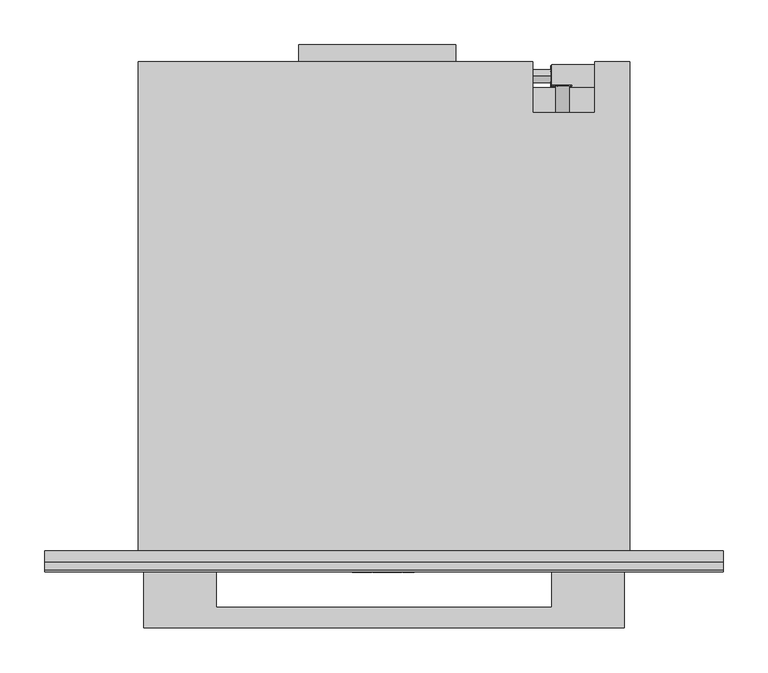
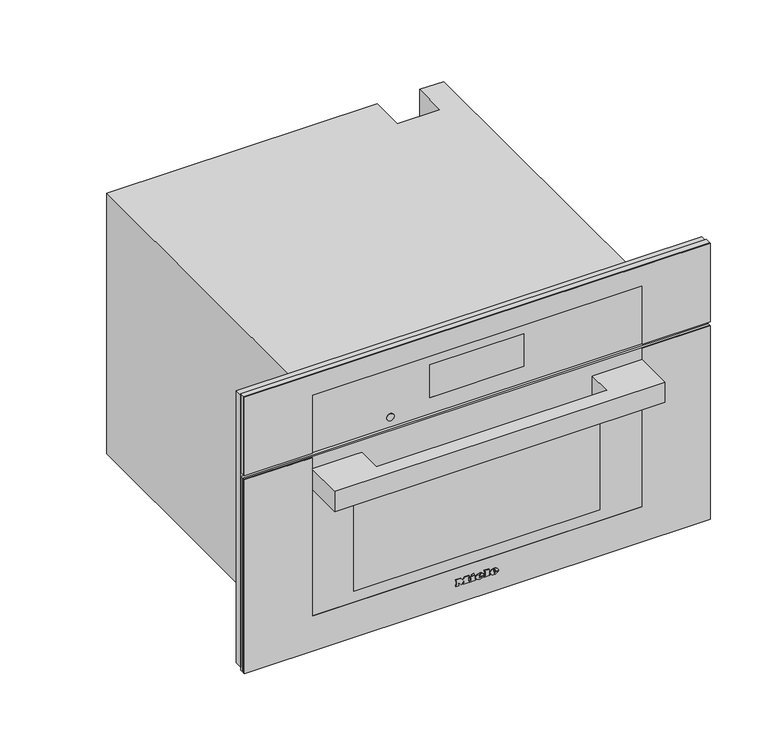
"""IFC4 building model written with IfcOpenShell, lengths in millimetres: proxy geometry, 11875760_USA_DGC7775_EDST-CLST : 23777542_USA_11875760_DGC7775_EDST-CLST."""

from ifc_helpers import new_model, si_unit, point, frame, frame_2d, origin, place, context, project, spatial, polyline, circle_curve, ellipse_curve, trimmed, segment, composite_curve, outline, extrude, faceted_brep, source, transform, mapped, element, save
from ifc_brep_helpers import plane_surface, cylinder_surface, revolved_surface, extruded_surface, advanced_brep


def specialty_equipment_04b4d9b1(model_context):
    return source(origin(), model_context, "Body", "SolidModel", [
        faceted_brep([(378.5, -13.0, 476.0), (-378.5, -13.0, 476.0), (-378.5, -13.0, 9.0), (-272.5, -13.0, 9.0), (-272.5, -13.0, 344.0), (272.5, -13.0, 344.0), (272.5, -13.0, 9.0), (378.5, -13.0, 9.0), (378.5, 0.0, 476.0), (378.5, 0.0, 9.0), (-378.5, 0.0, 9.0), (-378.5, 0.0, 476.0), (231.0, 0.0, 58.0), (231.0, 0.0, 286.0), (-231.0, 0.0, 286.0), (-231.0, 0.0, 58.0), (272.5, -5.0, 9.0), (-272.5, -5.0, 9.0), (-272.5, -5.0, 344.0), (272.5, -5.0, 344.0), (231.0, -5.0, 286.0), (231.0, -5.0, 58.0), (-231.0, -5.0, 58.0), (-231.0, -5.0, 286.0)], [[[0, 1, 2, 3, 4, 5, 6, 7]], [[8, 9, 10, 11], [12, 13, 14, 15]], [[1, 0, 8, 11]], [[2, 1, 11, 10]], [[10, 9, 7, 6, 16, 17, 3, 2]], [[0, 7, 9, 8]], [[18, 19, 5, 4]], [[18, 4, 3, 17]], [[5, 19, 16, 6]], [[19, 18, 17, 16], [20, 21, 22, 23]], [[20, 13, 12, 21]], [[21, 12, 15, 22]], [[22, 15, 14, 23]], [[13, 20, 23, 14]]]),
        extrude(outline(polyline([(-95.0, 565.0), (80.0, 565.0), (80.0, 546.0), (-95.0, 546.0), (-95.0, 565.0)])), frame((0.0, 0.0, 260.0), z_axis=(0.0, 0.0, 1.0), x_axis=(1.0, 0.0, 0.0)), (0.0, 0.0, 1.0), 1.0),
        extrude(outline(polyline([(224.8383288, 537.0), (231.1236409, 537.0), (231.1236409, 526.9492425), (229.8571792, 526.9492425), (229.8571792, 535.7409796), (224.8383288, 535.7409796), (224.8383288, 537.0)])), frame((0.0, 0.0, 132.0), z_axis=(0.0, 0.0, 1.0), x_axis=(1.0, 0.0, 0.0)), (0.0, 0.0, 1.0), 1.0),
        extrude(outline(polyline([(233.0, 537.0), (240.3797826, 537.0), (240.3797826, 526.9503529), (233.15422, 526.9503529), (233.15422, 528.220938), (239.1355215, 528.220938), (239.1355215, 531.1975645), (233.4863097, 531.1975645), (233.4863097, 532.449242), (239.1355215, 532.449242), (239.1355215, 535.7448633), (233.0, 535.7448633), (233.0, 537.0)])), frame((0.0, 0.0, 132.0), z_axis=(0.0, 0.0, 1.0), x_axis=(1.0, 0.0, 0.0)), (0.0, 0.0, 1.0), 1.0),
        extrude(outline(polyline([(519.6429442, 19.9943805), (518.3113439, 19.9943805), (522.3179353, 30.0448542), (523.3959224, 30.0448542), (527.4062166, 20.0), (526.0536081, 20.0), (524.9175759, 23.121223), (520.7810217, 23.121223), (519.6429442, 19.9943805)]), holes=[polyline([(521.2587176, 24.4336815), (524.43988, 24.4336815), (522.8492988, 28.8037675), (521.2587176, 24.4336815)])]), frame((186.0, 0.0, 0.0), z_axis=(1.0, 0.0, 0.0), x_axis=(0.0, 1.0, 0.0)), (0.0, 0.0, 1.0), 1.0),
        extrude(outline(polyline([(530.5321321, 20.0), (527.8018067, 30.0490432), (529.0968223, 30.0490432), (531.1602937, 21.4201336), (533.686646, 30.0556718), (535.5455392, 30.0556718), (538.1024658, 21.4662572), (540.1658975, 30.0556718), (541.4634812, 30.0556718), (538.7128319, 20.0), (537.3799359, 20.0), (534.6350025, 28.8403806), (532.048723, 20.0), (530.5321321, 20.0)])), frame((186.0, 0.0, 0.0), z_axis=(1.0, 0.0, 0.0), x_axis=(0.0, 1.0, 0.0)), (0.0, 0.0, 1.0), 1.0),
        extrude(outline(composite_curve([segment(trimmed(circle_curve(frame_2d((233.0, 532.0)), 7.5), [point((225.5, 532.0))], [point((240.5, 532.0))], False, "CARTESIAN"), True, "CONTINUOUS"), segment(trimmed(circle_curve(frame_2d((233.0, 532.0)), 7.5), [point((240.5, 532.0))], [point((225.5, 532.0))], False, "CARTESIAN"), True, "CONTINUOUS")], self_intersect=False)), frame((0.0, 0.0, 133.0), z_axis=(0.0, 0.0, 1.0), x_axis=(1.0, 0.0, 0.0)), (0.0, 0.0, 1.0), 30.0),
        extrude(outline(polyline([(266.0, 517.0), (187.0, 517.0), (187.0, 543.0), (266.0, 543.0), (266.0, 517.0)])), frame((0.0, 0.0, 163.0), z_axis=(0.0, 0.0, 1.0), x_axis=(1.0, 0.0, 0.0)), (0.0, 0.0, 1.0), 111.0),
        extrude(outline(polyline([(383.0, 196.9217896), (383.0, 198.4267862), (393.0435673, 201.1942402), (393.0435673, 199.9014806), (384.4295103, 197.7797951), (393.0470645, 195.3087512), (393.0470645, 193.4373937), (384.4121052, 190.9191482), (393.0472266, 188.8443938), (393.0472266, 187.5376524), (383.0, 190.2769667), (383.0, 191.6257455), (391.8347238, 194.3884733), (383.0, 196.9217896)])), frame((0.0, 519.0, 0.0), z_axis=(0.0, 1.0, 0.0), x_axis=(0.0, 0.0, 1.0)), (0.0, 0.0, 1.0), 1.0),
        extrude(outline(polyline([(393.0468463, 209.521488), (393.0468463, 208.2566067), (388.129594, 208.2566067), (393.0474898, 203.1074328), (393.0474898, 201.3597489), (388.9313111, 205.6695027), (383.0, 201.1858157), (383.0, 202.7358731), (388.0700777, 206.5685235), (386.4282746, 208.2823622), (383.0, 208.2823622), (383.0, 209.521488), (393.0468463, 209.521488)])), frame((0.0, 519.0, 0.0), z_axis=(0.0, 1.0, 0.0), x_axis=(0.0, 0.0, 1.0)), (0.0, 0.0, 1.0), 1.0),
        extrude(outline(composite_curve([segment(trimmed(circle_curve(frame_2d((388.0, 199.0)), 7.5), [point((388.0, 206.5))], [point((388.0, 191.5))], False, "CARTESIAN"), True, "CONTINUOUS"), segment(trimmed(circle_curve(frame_2d((388.0, 199.0)), 7.5), [point((388.0, 191.5))], [point((388.0, 206.5))], False, "CARTESIAN"), True, "CONTINUOUS")], self_intersect=False)), frame((0.0, 489.0, 0.0), z_axis=(0.0, 1.0, 0.0), x_axis=(0.0, 0.0, 1.0)), (0.0, 0.0, 1.0), 30.0),
        extrude(outline(composite_curve([segment(trimmed(circle_curve(frame_2d((530.0, 25.0)), 7.5), [point((530.0, 17.5))], [point((530.0, 32.5))], False, "CARTESIAN"), True, "CONTINUOUS"), segment(trimmed(circle_curve(frame_2d((530.0, 25.0)), 7.5), [point((530.0, 32.5))], [point((530.0, 17.5))], False, "CARTESIAN"), True, "CONTINUOUS")], self_intersect=False)), frame((166.0, 0.0, 0.0), z_axis=(1.0, 0.0, 0.0), x_axis=(0.0, 1.0, 0.0)), (0.0, 0.0, 1.0), 20.0),
        faceted_brep([(-274.0, 546.0, 0.0), (-274.0, 546.0, 448.0), (166.0, 546.0, 448.0), (166.0, 546.0, 0.0), (235.0, 546.0, 448.0), (274.0, 546.0, 448.0), (274.0, 546.0, 338.0), (235.0, 546.0, 338.0), (274.0, 0.0, 448.0), (-274.0, 0.0, 448.0), (-274.0, 0.0, 0.0), (274.0, 0.0, 0.0), (231.0, 0.0, 286.0), (231.0, 0.0, 58.0), (-231.0, 0.0, 58.0), (-231.0, 0.0, 286.0), (235.0, 489.0, 448.0), (166.0, 489.0, 448.0), (166.0, 517.0, 0.0), (274.0, 517.0, 0.0), (274.0, 517.0, 338.0), (231.0, 411.0, 286.0), (-231.0, 411.0, 286.0), (-231.0, 411.0, 58.0), (231.0, 411.0, 58.0), (235.0, 489.0, 337.0), (166.0, 489.0, 337.0), (166.0, 517.0, 337.0), (235.0, 517.0, 337.0), (235.0, 517.0, 338.0)], [[[0, 1, 2, 3]], [[4, 5, 6, 7]], [[8, 9, 10, 11], [12, 13, 14, 15]], [[9, 8, 5, 4, 16, 17, 2, 1]], [[1, 0, 10, 9]], [[11, 10, 0, 3, 18, 19]], [[8, 11, 19, 20, 6, 5]], [[21, 22, 23, 24]], [[21, 24, 13, 12]], [[24, 23, 14, 13]], [[23, 22, 15, 14]], [[22, 21, 12, 15]], [[16, 25, 26, 17]], [[17, 26, 27, 18, 3, 2]], [[26, 25, 28, 27]], [[25, 16, 4, 7, 29, 28]], [[29, 20, 19, 18, 27, 28]], [[20, 29, 7, 6]]]),
        advanced_brep(
        [(26.2998, -24.3, 36.7018), (26.2998, -24.3, 37.8532), (33.9264, -24.3, 37.8532), (20.6568, -24.3, 37.8532), (23.7918, -24.3, 34.0), (33.7326, -24.3, 36.7018), (30.2898, -24.3, 36.7018), (27.5766, -24.3, 35.425), (26.2998, -24.3, 39.3124), (26.2998, -24.3, 40.555), (28.2492, -24.3, 40.555), (28.2492, -24.3, 39.3124), (26.2998, -23.3, 36.7018), (27.5766, -23.3, 35.425), (30.2898, -23.3, 36.7018), (33.7326, -23.3, 36.7018), (23.7918, -23.3, 34.0), (20.6568, -23.3, 37.8532), (33.9264, -23.3, 37.8532), (26.2998, -23.3, 37.8532), (26.2998, -23.3, 39.3124), (28.2492, -23.3, 39.3124), (28.2492, -23.3, 40.555), (26.2998, -23.3, 40.555)],
        [
            (0, 1),
            (1, 2),
            (2, 3, ellipse_curve(frame((27.2916, -24.3, 37.8532), z_axis=(0.0, -1.0, 0.0), x_axis=(-1.0, 0.0, 0.0)), 6.6348, 5.4834)),
            (3, 4, circle_curve(frame((25.0686622, -24.3, 38.2408), z_axis=(0.0, -1.0, 0.0), x_axis=(0.0, 0.0, -1.0)), 4.4288556)),
            (4, 5, circle_curve(frame((27.1587808, -24.3, 41.2504), z_axis=(0.0, -1.0, 0.0), x_axis=(0.0, 0.0, -1.0)), 7.9940516)),
            (5, 6),
            (6, 7, circle_curve(frame((28.1338588, -24.3, 37.762), z_axis=(0.0, 1.0, 0.0), x_axis=(0.0, 0.0, -1.0)), 2.4025208)),
            (7, 0, circle_curve(frame((27.5766, -24.3, 36.7018), z_axis=(0.0, 1.0, 0.0), x_axis=(0.0, 0.0, -1.0)), 1.2768)),
            (8, 9),
            (9, 10, circle_curve(frame((27.2745, -24.3, 40.555), z_axis=(0.0, 1.0, 0.0), x_axis=(0.0, 0.0, -1.0)), 0.9747)),
            (10, 11),
            (11, 8),
            (12, 13, circle_curve(frame((27.5766, -23.3, 36.7018), z_axis=(0.0, -1.0, 0.0), x_axis=(0.0, 0.0, -1.0)), 1.2768)),
            (13, 14, circle_curve(frame((28.1338588, -23.3, 37.762), z_axis=(0.0, -1.0, 0.0), x_axis=(0.0, 0.0, -1.0)), 2.4025208)),
            (14, 15),
            (15, 16, circle_curve(frame((27.1587808, -23.3, 41.2504), z_axis=(0.0, 1.0, 0.0), x_axis=(0.0, 0.0, -1.0)), 7.9940516)),
            (16, 17, circle_curve(frame((25.0686622, -23.3, 38.2408), z_axis=(0.0, 1.0, 0.0), x_axis=(0.0, 0.0, -1.0)), 4.4288556)),
            (17, 18, ellipse_curve(frame((27.2916, -23.3, 37.8532), z_axis=(0.0, 1.0, 0.0), x_axis=(-1.0, 0.0, 0.0)), 6.6348, 5.4834)),
            (18, 19),
            (19, 12),
            (20, 21),
            (21, 22),
            (22, 23, circle_curve(frame((27.2745, -23.3, 40.555), z_axis=(0.0, -1.0, 0.0), x_axis=(0.0, 0.0, -1.0)), 0.9747)),
            (23, 20),
            (0, 12),
            (19, 1),
            (18, 2),
            (5, 15),
            (14, 6),
            (17, 3),
            (13, 7),
            (16, 4),
            (8, 20),
            (23, 9),
            (22, 10),
            (21, 11),
        ],
        [
            plane_surface(frame((26.2998, -24.3, 37.8532), z_axis=(0.0, -1.0, 0.0), x_axis=(0.0, 0.0, 1.0))),
            plane_surface(frame((26.2998, -23.3, 37.8532), z_axis=(0.0, 1.0, 0.0), x_axis=(0.0, 0.0, -1.0))),
            plane_surface(frame((26.2998, -24.3, 36.7018), z_axis=(1.0, 0.0, 0.0), x_axis=(0.0, 1.0, 0.0))),
            plane_surface(frame((26.2998, -24.3, 37.8532), z_axis=(0.0, 0.0, -1.0), x_axis=(0.0, 1.0, 0.0))),
            plane_surface(frame((33.7326, -24.3, 36.7018), z_axis=(0.0, 0.0, 1.0), x_axis=(0.0, 1.0, 0.0))),
            extruded_surface(trimmed(ellipse_curve(frame((27.2916, -22.3, 37.8532), z_axis=(0.0, -1.0, 0.0), x_axis=(-1.0, 0.0, 0.0)), 6.6348, 5.4834), [point((33.9264, -22.3, 37.8532))], [point((20.6568, -22.3, 37.8532))], True, "CARTESIAN"), (0.0, -1.0, 0.0), 1.0),
            revolved_surface(polyline([(28.1338588, -23.3, 35.3594792), (28.1338588, -24.3, 35.3594792)]), (28.1338588, -23.3, 37.762), (0.0, 1.0, 0.0)),
            revolved_surface(polyline([(27.5766, -23.3, 35.425), (27.5766, -24.3, 35.425)]), (27.5766, -23.3, 36.7018), (0.0, 1.0, 0.0)),
            cylinder_surface(frame((25.0686622, -23.3, 38.2408), z_axis=(0.0, -1.0, 0.0), x_axis=(0.0, 0.0, -1.0)), 4.4288556),
            cylinder_surface(frame((27.1587808, -23.3, 41.2504), z_axis=(0.0, -1.0, 0.0), x_axis=(0.0, 0.0, -1.0)), 7.9940516),
            plane_surface(frame((26.2998, -24.3, 39.3124), z_axis=(1.0, 0.0, 0.0), x_axis=(0.0, 1.0, 0.0))),
            revolved_surface(polyline([(27.2745, -23.3, 39.5803), (27.2745, -24.3, 39.5803)]), (27.2745, -23.3, 40.555), (0.0, 1.0, 0.0)),
            plane_surface(frame((28.2492, -24.3, 40.555), z_axis=(-1.0, 0.0, 0.0), x_axis=(0.0, 1.0, 0.0))),
            plane_surface(frame((28.2492, -24.3, 39.3124), z_axis=(0.0, 0.0, 1.0), x_axis=(0.0, 1.0, 0.0))),
        ],
        [
            (0, [[1, 2, 3, 4, 5, 6, 7, 8], [9, 10, 11, 12]]),
            (1, [[13, 14, 15, 16, 17, 18, 19, 20], [21, 22, 23, 24]]),
            (2, [[-1, 25, -20, 26]]),
            (3, [[-2, -26, -19, 27]]),
            (4, [[-6, 28, -15, 29]]),
            (5, [[-3, -27, -18, 30]]),
            (6, [[-7, -29, -14, 31]]),
            (7, [[-8, -31, -13, -25]]),
            (8, [[-4, -30, -17, 32]]),
            (9, [[-5, -32, -16, -28]]),
            (10, [[-9, 33, -24, 34]]),
            (11, [[-10, -34, -23, 35]]),
            (12, [[-11, -35, -22, 36]]),
            (13, [[-12, -36, -21, -33]]),
        ],
    ),
        advanced_brep(
        [(2.508, -24.3, 36.7018), (2.508, -24.3, 37.8532), (10.1346, -24.3, 37.8532), (-3.135, -24.3, 37.8532), (0.0, -24.3, 34.0), (9.9408, -24.3, 36.7018), (6.498, -24.3, 36.7018), (3.7848, -24.3, 35.425), (2.508, -24.3, 39.3124), (2.508, -24.3, 40.555), (4.4574, -24.3, 40.555), (4.4574, -24.3, 39.3124), (2.508, -23.3, 36.7018), (3.7848, -23.3, 35.425), (6.498, -23.3, 36.7018), (9.9408, -23.3, 36.7018), (0.0, -23.3, 34.0), (-3.135, -23.3, 37.8532), (10.1346, -23.3, 37.8532), (2.508, -23.3, 37.8532), (2.508, -23.3, 39.3124), (4.4574, -23.3, 39.3124), (4.4574, -23.3, 40.555), (2.508, -23.3, 40.555)],
        [
            (0, 1),
            (1, 2),
            (2, 3, ellipse_curve(frame((3.4998, -24.3, 37.8532), z_axis=(0.0, -1.0, 0.0), x_axis=(-1.0, 0.0, 0.0)), 6.6348, 5.4834)),
            (3, 4, circle_curve(frame((1.2768622, -24.3, 38.2408), z_axis=(0.0, -1.0, 0.0), x_axis=(0.0, 0.0, -1.0)), 4.4288556)),
            (4, 5, circle_curve(frame((3.3669808, -24.3, 41.2504), z_axis=(0.0, -1.0, 0.0), x_axis=(0.0, 0.0, -1.0)), 7.9940516)),
            (5, 6),
            (6, 7, circle_curve(frame((4.3420588, -24.3, 37.762), z_axis=(0.0, 1.0, 0.0), x_axis=(0.0, 0.0, -1.0)), 2.4025208)),
            (7, 0, circle_curve(frame((3.7848, -24.3, 36.7018), z_axis=(0.0, 1.0, 0.0), x_axis=(0.0, 0.0, -1.0)), 1.2768)),
            (8, 9),
            (9, 10, circle_curve(frame((3.4827, -24.3, 40.555), z_axis=(0.0, 1.0, 0.0), x_axis=(0.0, 0.0, -1.0)), 0.9747)),
            (10, 11),
            (11, 8),
            (12, 13, circle_curve(frame((3.7848, -23.3, 36.7018), z_axis=(0.0, -1.0, 0.0), x_axis=(0.0, 0.0, -1.0)), 1.2768)),
            (13, 14, circle_curve(frame((4.3420588, -23.3, 37.762), z_axis=(0.0, -1.0, 0.0), x_axis=(0.0, 0.0, -1.0)), 2.4025208)),
            (14, 15),
            (15, 16, circle_curve(frame((3.3669808, -23.3, 41.2504), z_axis=(0.0, 1.0, 0.0), x_axis=(0.0, 0.0, -1.0)), 7.9940516)),
            (16, 17, circle_curve(frame((1.2768622, -23.3, 38.2408), z_axis=(0.0, 1.0, 0.0), x_axis=(0.0, 0.0, -1.0)), 4.4288556)),
            (17, 18, ellipse_curve(frame((3.4998, -23.3, 37.8532), z_axis=(0.0, 1.0, 0.0), x_axis=(-1.0, 0.0, 0.0)), 6.6348, 5.4834)),
            (18, 19),
            (19, 12),
            (20, 21),
            (21, 22),
            (22, 23, circle_curve(frame((3.4827, -23.3, 40.555), z_axis=(0.0, -1.0, 0.0), x_axis=(0.0, 0.0, -1.0)), 0.9747)),
            (23, 20),
            (0, 12),
            (19, 1),
            (18, 2),
            (5, 15),
            (14, 6),
            (17, 3),
            (13, 7),
            (16, 4),
            (8, 20),
            (23, 9),
            (22, 10),
            (21, 11),
        ],
        [
            plane_surface(frame((2.508, -24.3, 37.8532), z_axis=(0.0, -1.0, 0.0), x_axis=(0.0, 0.0, 1.0))),
            plane_surface(frame((2.508, -23.3, 37.8532), z_axis=(0.0, 1.0, 0.0), x_axis=(0.0, 0.0, -1.0))),
            plane_surface(frame((2.508, -24.3, 36.7018), z_axis=(1.0, 0.0, 0.0), x_axis=(0.0, 1.0, 0.0))),
            plane_surface(frame((2.508, -24.3, 37.8532), z_axis=(0.0, 0.0, -1.0), x_axis=(0.0, 1.0, 0.0))),
            plane_surface(frame((9.9408, -24.3, 36.7018), z_axis=(0.0, 0.0, 1.0), x_axis=(0.0, 1.0, 0.0))),
            extruded_surface(trimmed(ellipse_curve(frame((3.4998, -22.3, 37.8532), z_axis=(0.0, -1.0, 0.0), x_axis=(-1.0, 0.0, 0.0)), 6.6348, 5.4834), [point((10.1346, -22.3, 37.8532))], [point((-3.135, -22.3, 37.8532))], True, "CARTESIAN"), (0.0, -1.0, 0.0), 1.0),
            revolved_surface(polyline([(4.3420588, -23.3, 35.3594792), (4.3420588, -24.3, 35.3594792)]), (4.3420588, -23.3, 37.762), (0.0, 1.0, 0.0)),
            revolved_surface(polyline([(3.7848, -23.3, 35.425), (3.7848, -24.3, 35.425)]), (3.7848, -23.3, 36.7018), (0.0, 1.0, 0.0)),
            cylinder_surface(frame((1.2768622, -23.3, 38.2408), z_axis=(0.0, -1.0, 0.0), x_axis=(0.0, 0.0, -1.0)), 4.4288556),
            cylinder_surface(frame((3.3669808, -23.3, 41.2504), z_axis=(0.0, -1.0, 0.0), x_axis=(0.0, 0.0, -1.0)), 7.9940516),
            plane_surface(frame((2.508, -24.3, 39.3124), z_axis=(1.0, 0.0, 0.0), x_axis=(0.0, 1.0, 0.0))),
            revolved_surface(polyline([(3.4827, -23.3, 39.5803), (3.4827, -24.3, 39.5803)]), (3.4827, -23.3, 40.555), (0.0, 1.0, 0.0)),
            plane_surface(frame((4.4574, -24.3, 40.555), z_axis=(-1.0, 0.0, 0.0), x_axis=(0.0, 1.0, 0.0))),
            plane_surface(frame((4.4574, -24.3, 39.3124), z_axis=(0.0, 0.0, 1.0), x_axis=(0.0, 1.0, 0.0))),
        ],
        [
            (0, [[1, 2, 3, 4, 5, 6, 7, 8], [9, 10, 11, 12]]),
            (1, [[13, 14, 15, 16, 17, 18, 19, 20], [21, 22, 23, 24]]),
            (2, [[-1, 25, -20, 26]]),
            (3, [[-2, -26, -19, 27]]),
            (4, [[-6, 28, -15, 29]]),
            (5, [[-3, -27, -18, 30]]),
            (6, [[-7, -29, -14, 31]]),
            (7, [[-8, -31, -13, -25]]),
            (8, [[-4, -30, -17, 32]]),
            (9, [[-5, -32, -16, -28]]),
            (10, [[-9, 33, -24, 34]]),
            (11, [[-10, -34, -23, 35]]),
            (12, [[-11, -35, -22, 36]]),
            (13, [[-12, -36, -21, -33]]),
        ],
    ),
        extrude(outline(polyline([(44.7274, -9.9522), (42.8806, -9.0858), (44.6818, -5.2212), (46.5286, -6.0762), (44.7274, -9.9522)])), frame((0.0, -24.3, 0.0), z_axis=(0.0, 1.0, 0.0), x_axis=(0.0, 0.0, 1.0)), (0.0, 0.0, 1.0), 1.0),
        extrude(outline(polyline([(42.6298, -12.768), (40.5892, -12.768), (40.5892, -11.4114), (35.9152, -11.4114), (35.9152, -12.768), (34.0, -12.768), (34.0, -3.7734), (35.9152, -3.7734), (35.9152, -5.0958), (42.6298, -5.0958), (42.6298, -12.768)])), frame((0.0, -24.3, 0.0), z_axis=(0.0, 1.0, 0.0), x_axis=(0.0, 0.0, 1.0)), (0.0, 0.0, 1.0), 1.0),
        extrude(outline(polyline([(43.5418, 10.773), (43.5418, 12.141), (35.9152, 12.141), (35.9152, 10.773), (34.0, 10.773), (34.0, 20.0184), (35.9152, 20.0184), (35.9152, 18.6162), (45.4, 18.6162), (45.4, 10.773), (43.5418, 10.773)])), frame((0.0, -24.3, 0.0), z_axis=(0.0, 1.0, 0.0), x_axis=(0.0, 0.0, 1.0)), (0.0, 0.0, 1.0), 1.0),
        extrude(outline(polyline([(43.5418, -35.4882), (43.5418, -34.1088), (35.9152, -34.1088), (35.9152, -35.4882), (34.0, -35.4882), (34.0, -30.4722), (35.9152, -30.4722), (35.9152, -31.8402), (40.7429247, -31.8402), (34.0, -26.7444), (40.9402223, -21.6258), (35.9152, -21.6258), (35.9152, -23.028), (34.0, -23.028), (34.0, -13.9308), (35.9152, -13.9308), (35.9152, -15.3786), (43.5418, -15.3786), (43.5418, -13.9308), (45.4, -13.9308), (45.4, -20.8734), (41.125, -24.2022), (45.4, -27.5424), (45.4, -35.4882), (43.5418, -35.4882)])), frame((0.0, -24.3, 0.0), z_axis=(0.0, 1.0, 0.0), x_axis=(0.0, 0.0, 1.0)), (0.0, 0.0, 1.0), 1.0),
        extrude(outline(composite_curve([segment(trimmed(circle_curve(frame_2d((361.0, -140.5745637)), 6.0), [point((361.0, -146.5745637))], [point((361.0, -134.5745637))], False, "CARTESIAN"), True, "CONTINUOUS"), segment(trimmed(circle_curve(frame_2d((361.0, -140.5745637)), 6.0), [point((361.0, -134.5745637))], [point((361.0, -146.5745637))], False, "CARTESIAN"), True, "CONTINUOUS")], self_intersect=False)), frame((0.0, -22.5, 0.0), z_axis=(0.0, 1.0, 0.0), x_axis=(0.0, 0.0, 1.0)), (0.0, 0.0, 1.0), 1.0),
        extrude(outline(polyline([(344.0, -268.5), (444.0, -268.5), (444.0, 268.5), (344.0, 268.5), (344.0, 378.5), (479.0, 378.5), (479.0, -378.5), (344.0, -378.5), (344.0, -268.5)])), frame((0.0, -23.3, 0.0), z_axis=(0.0, 1.0, 0.0), x_axis=(0.0, 0.0, 1.0)), (0.0, 0.0, 1.0), 1.3),
        extrude(outline(polyline([(-76.5, -21.0), (76.5, -21.0), (76.5, -22.0), (-76.5, -22.0), (-76.5, -21.0)])), frame((0.0, 0.0, 372.0), z_axis=(0.0, 0.0, 1.0), x_axis=(1.0, 0.0, 0.0)), (0.0, 0.0, 1.0), 56.0),
        faceted_brep([(378.5, -22.0, 479.0), (-378.5, -22.0, 479.0), (-378.5, -22.0, 344.0), (378.5, -22.0, 344.0), (76.5, -22.0, 428.0), (76.5, -22.0, 372.0), (-76.5, -22.0, 372.0), (-76.5, -22.0, 428.0), (378.5, -13.0, 479.0), (378.5, -13.0, 344.0), (-378.5, -13.0, 344.0), (-378.5, -13.0, 479.0), (76.5, -21.0, 428.0), (-76.5, -21.0, 428.0), (-76.5, -21.0, 372.0), (76.5, -21.0, 372.0)], [[[0, 1, 2, 3], [4, 5, 6, 7]], [[8, 9, 10, 11]], [[1, 0, 8, 11]], [[2, 1, 11, 10]], [[3, 2, 10, 9]], [[0, 3, 9, 8]], [[12, 13, 14, 15]], [[12, 15, 5, 4]], [[15, 14, 6, 5]], [[14, 13, 7, 6]], [[13, 12, 4, 7]]]),
        extrude(outline(polyline([(200.0, -22.0), (-200.0, -22.0), (-200.0, -18.0), (200.0, -18.0), (200.0, -22.0)])), frame((0.0, 0.0, 82.0), z_axis=(0.0, 0.0, 1.0), x_axis=(1.0, 0.0, 0.0)), (0.0, 0.0, 1.0), 170.0),
        extrude(outline(polyline([(337.0, 378.5), (337.0, -378.5), (4.0, -378.5), (4.0, 378.5), (337.0, 378.5)]), holes=[polyline([(252.0, -200.0), (252.0, 200.0), (82.0, 200.0), (82.0, -200.0), (252.0, -200.0)])]), frame((0.0, -22.0, 0.0), z_axis=(0.0, 1.0, 0.0), x_axis=(0.0, 0.0, 1.0)), (0.0, 0.0, 1.0), 4.0),
        extrude(outline(polyline([(-187.0, -22.0), (-187.0, -63.3), (187.0, -63.3), (187.0, -22.0), (268.0, -22.0), (268.0, -86.3), (-268.0, -86.3), (-268.0, -22.0), (-187.0, -22.0)])), frame((0.0, 0.0, 282.0), z_axis=(0.0, 0.0, 1.0), x_axis=(1.0, 0.0, 0.0)), (0.0, 0.0, 1.0), 35.0),
        extrude(outline(polyline([(337.0, -378.5), (4.0, -378.5), (4.0, 378.5), (337.0, 378.5), (337.0, 268.5), (64.0, 268.5), (64.0, -268.5), (337.0, -268.5), (337.0, -378.5)])), frame((0.0, -23.3, 0.0), z_axis=(0.0, 1.0, 0.0), x_axis=(0.0, 0.0, 1.0)), (0.0, 0.0, 1.0), 1.3),
        extrude(outline(polyline([(378.5, -18.0), (-378.5, -18.0), (-378.5, -13.0), (378.5, -13.0), (378.5, -18.0)])), frame((0.0, 0.0, 4.0), z_axis=(0.0, 0.0, 1.0), x_axis=(1.0, 0.0, 0.0)), (0.0, 0.0, 1.0), 333.0),
    ])


if __name__ == "__main__":
    model = new_model("IFC4")
    model_context = context("Model", 3, world=origin())
    ifc_project = project(units=[si_unit("LENGTHUNIT", "METRE", prefix="MILLI")], contexts=[model_context])
    site = spatial("IfcSite", under=ifc_project)
    building = spatial("IfcBuilding", under=site)
    placement = place(None, origin())
    specialty_equipment_shape = specialty_equipment_04b4d9b1(model_context)
    element("IfcBuildingElementProxy", 1, Name="11875760_USA_DGC7775_EDST-CLST : 23777542_USA_11875760_DGC7775_EDST-CLST", ObjectType="11875760_USA_DGC7775_EDST-CLST : 23777542_USA_11875760_DGC7775_EDST-CLST", at=placement, inside=building, context=model_context, shape_type="MappedRepresentation", body=[
        mapped(specialty_equipment_shape, transform((0.0, 0.0, 0.0), x_axis=(1.0, 0.0, 0.0), y_axis=(0.0, 1.0, 0.0), z_axis=(0.0, 0.0, 1.0))),
    ])
    save(model, "model.ifc")
